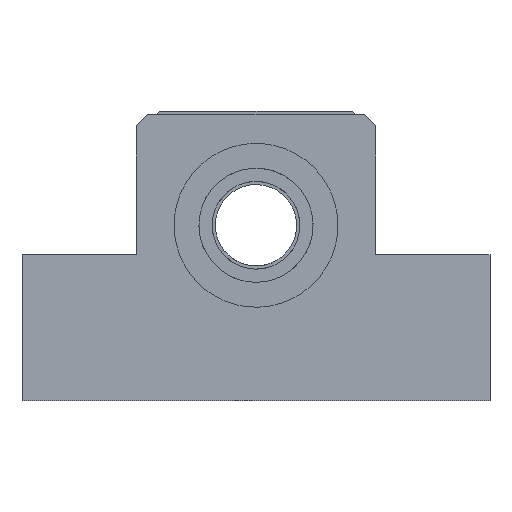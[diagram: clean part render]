
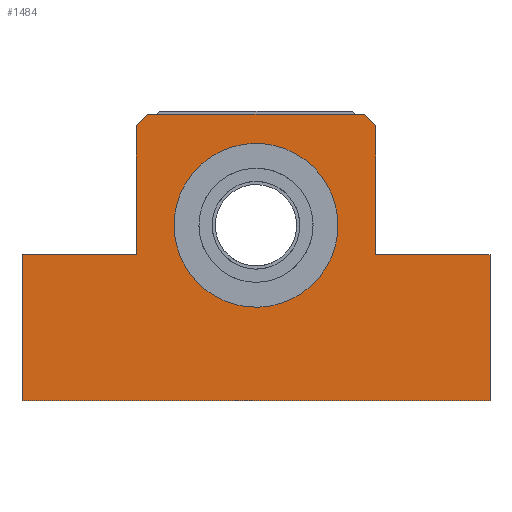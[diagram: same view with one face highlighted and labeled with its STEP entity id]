
A CAD part, left-side view. The second image highlights one B-rep face of the part: STEP entity #1484.
In plain terms, the highlighted planar face has unit normal (-1, 0, 0).
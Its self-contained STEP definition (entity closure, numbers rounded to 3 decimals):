
#891=CARTESIAN_POINT('Vertex',(-25.,18.5,19.)) ;
#894=CARTESIAN_POINT('Line Origine',(-25.,0.,19.)) ;
#898=CARTESIAN_POINT('Vertex',(-25.,-18.5,19.)) ;
#920=CARTESIAN_POINT('Line Origine',(-25.,-20.5,6.)) ;
#924=CARTESIAN_POINT('Vertex',(-25.,-20.5,17.)) ;
#926=CARTESIAN_POINT('Vertex',(-25.,-20.5,-5.)) ;
#951=CARTESIAN_POINT('Line Origine',(-25.,-30.25,-5.)) ;
#955=CARTESIAN_POINT('Vertex',(-25.,-40.,-5.)) ;
#1035=CARTESIAN_POINT('Line Origine',(-25.,-40.,-17.5)) ;
#1039=CARTESIAN_POINT('Vertex',(-25.,-40.,-30.)) ;
#1059=CARTESIAN_POINT('Line Origine',(-25.,0.,-30.)) ;
#1063=CARTESIAN_POINT('Vertex',(-25.,40.,-30.)) ;
#1203=CARTESIAN_POINT('Line Origine',(-25.,40.,-17.5)) ;
#1207=CARTESIAN_POINT('Vertex',(-25.,40.,-5.)) ;
#1222=CARTESIAN_POINT('Line Origine',(-25.,30.25,-5.)) ;
#1226=CARTESIAN_POINT('Vertex',(-25.,20.5,-5.)) ;
#1306=CARTESIAN_POINT('Line Origine',(-25.,20.5,6.)) ;
#1310=CARTESIAN_POINT('Vertex',(-25.,20.5,17.)) ;
#1330=CARTESIAN_POINT('Line Origine',(-25.,19.5,18.)) ;
#1347=CARTESIAN_POINT('Line Origine',(-25.,-19.5,18.)) ;
#1407=CARTESIAN_POINT('Axis2P3D Location',(-25.,0.,0.)) ;
#1425=CARTESIAN_POINT('Control Point',(-25.,-12.286,-6.712)) ;
#1426=CARTESIAN_POINT('Control Point',(-25.,-11.671,-7.838)) ;
#1427=CARTESIAN_POINT('Control Point',(-25.,-10.927,-8.894)) ;
#1428=CARTESIAN_POINT('Control Point',(-25.,-10.064,-9.859)) ;
#1429=CARTESIAN_POINT('Control Point',(-25.,-8.134,-11.575)) ;
#1430=CARTESIAN_POINT('Control Point',(-25.,-5.865,-12.81)) ;
#1431=CARTESIAN_POINT('Control Point',(-25.,-4.665,-13.294)) ;
#1432=CARTESIAN_POINT('Control Point',(-25.,-2.174,-13.979)) ;
#1433=CARTESIAN_POINT('Control Point',(-25.,0.407,-14.083)) ;
#1434=CARTESIAN_POINT('Control Point',(-25.,1.698,-13.986)) ;
#1435=CARTESIAN_POINT('Control Point',(-25.,4.234,-13.498)) ;
#1436=CARTESIAN_POINT('Control Point',(-25.,6.595,-12.45)) ;
#1437=CARTESIAN_POINT('Control Point',(-25.,7.71,-11.792)) ;
#1438=CARTESIAN_POINT('Control Point',(-25.,9.769,-10.233)) ;
#1439=CARTESIAN_POINT('Control Point',(-25.,11.422,-8.248)) ;
#1440=CARTESIAN_POINT('Control Point',(-25.,12.131,-7.165)) ;
#1441=CARTESIAN_POINT('Control Point',(-25.,13.288,-4.855)) ;
#1442=CARTESIAN_POINT('Control Point',(-25.,13.892,-2.344)) ;
#1443=CARTESIAN_POINT('Control Point',(-25.,14.049,-1.059)) ;
#1444=CARTESIAN_POINT('Control Point',(-25.,14.064,1.338)) ;
#1445=CARTESIAN_POINT('Control Point',(-25.,13.575,3.679)) ;
#1446=CARTESIAN_POINT('Control Point',(-25.,13.244,4.734)) ;
#1447=CARTESIAN_POINT('Control Point',(-25.,12.812,5.749)) ;
#1448=CARTESIAN_POINT('Control Point',(-25.,12.286,6.712)) ;
#1449=CARTESIAN_POINT('Vertex',(-25.,-12.286,-6.712)) ;
#1451=CARTESIAN_POINT('Vertex',(-25.,12.286,6.712)) ;
#1455=CARTESIAN_POINT('Control Point',(-25.,12.286,6.712)) ;
#1456=CARTESIAN_POINT('Control Point',(-25.,11.671,7.838)) ;
#1457=CARTESIAN_POINT('Control Point',(-25.,10.927,8.894)) ;
#1458=CARTESIAN_POINT('Control Point',(-25.,10.064,9.859)) ;
#1459=CARTESIAN_POINT('Control Point',(-25.,8.134,11.575)) ;
#1460=CARTESIAN_POINT('Control Point',(-25.,5.865,12.81)) ;
#1461=CARTESIAN_POINT('Control Point',(-25.,4.665,13.294)) ;
#1462=CARTESIAN_POINT('Control Point',(-25.,2.174,13.979)) ;
#1463=CARTESIAN_POINT('Control Point',(-25.,-0.407,14.083)) ;
#1464=CARTESIAN_POINT('Control Point',(-25.,-1.698,13.986)) ;
#1465=CARTESIAN_POINT('Control Point',(-25.,-4.234,13.498)) ;
#1466=CARTESIAN_POINT('Control Point',(-25.,-6.595,12.45)) ;
#1467=CARTESIAN_POINT('Control Point',(-25.,-7.71,11.792)) ;
#1468=CARTESIAN_POINT('Control Point',(-25.,-9.769,10.233)) ;
#1469=CARTESIAN_POINT('Control Point',(-25.,-11.422,8.248)) ;
#1470=CARTESIAN_POINT('Control Point',(-25.,-12.131,7.165)) ;
#1471=CARTESIAN_POINT('Control Point',(-25.,-13.288,4.855)) ;
#1472=CARTESIAN_POINT('Control Point',(-25.,-13.892,2.344)) ;
#1473=CARTESIAN_POINT('Control Point',(-25.,-14.049,1.059)) ;
#1474=CARTESIAN_POINT('Control Point',(-25.,-14.064,-1.338)) ;
#1475=CARTESIAN_POINT('Control Point',(-25.,-13.575,-3.679)) ;
#1476=CARTESIAN_POINT('Control Point',(-25.,-13.244,-4.734)) ;
#1477=CARTESIAN_POINT('Control Point',(-25.,-12.812,-5.749)) ;
#1478=CARTESIAN_POINT('Control Point',(-25.,-12.286,-6.712)) ;
#895=DIRECTION('Vector Direction',(0.,1.,0.)) ;
#921=DIRECTION('Vector Direction',(0.,0.,1.)) ;
#952=DIRECTION('Vector Direction',(0.,1.,0.)) ;
#1036=DIRECTION('Vector Direction',(0.,0.,1.)) ;
#1060=DIRECTION('Vector Direction',(0.,-1.,0.)) ;
#1204=DIRECTION('Vector Direction',(0.,0.,-1.)) ;
#1223=DIRECTION('Vector Direction',(0.,1.,0.)) ;
#1307=DIRECTION('Vector Direction',(0.,0.,-1.)) ;
#1331=DIRECTION('Vector Direction',(0.,-0.707,0.707)) ;
#1348=DIRECTION('Vector Direction',(0.,-0.707,-0.707)) ;
#1408=DIRECTION('Axis2P3D Direction',(1.,0.,0.)) ;
#1409=DIRECTION('Axis2P3D XDirection',(0.,1.,0.)) ;
#1410=AXIS2_PLACEMENT_3D('Plane Axis2P3D',#1407,#1408,#1409) ;
#1413=ORIENTED_EDGE('',*,*,#1351,.F.) ;
#1414=ORIENTED_EDGE('',*,*,#900,.F.) ;
#1415=ORIENTED_EDGE('',*,*,#1334,.F.) ;
#1416=ORIENTED_EDGE('',*,*,#1312,.F.) ;
#1417=ORIENTED_EDGE('',*,*,#1228,.F.) ;
#1418=ORIENTED_EDGE('',*,*,#1209,.F.) ;
#1419=ORIENTED_EDGE('',*,*,#1065,.F.) ;
#1420=ORIENTED_EDGE('',*,*,#1041,.F.) ;
#1421=ORIENTED_EDGE('',*,*,#957,.F.) ;
#1422=ORIENTED_EDGE('',*,*,#928,.F.) ;
#1481=ORIENTED_EDGE('',*,*,#1453,.T.) ;
#1482=ORIENTED_EDGE('',*,*,#1479,.T.) ;
#1483=FACE_BOUND('',#1480,.T.) ;
#896=VECTOR('Line Direction',#895,1.) ;
#922=VECTOR('Line Direction',#921,1.) ;
#953=VECTOR('Line Direction',#952,1.) ;
#1037=VECTOR('Line Direction',#1036,1.) ;
#1061=VECTOR('Line Direction',#1060,1.) ;
#1205=VECTOR('Line Direction',#1204,1.) ;
#1224=VECTOR('Line Direction',#1223,1.) ;
#1308=VECTOR('Line Direction',#1307,1.) ;
#1332=VECTOR('Line Direction',#1331,1.) ;
#1349=VECTOR('Line Direction',#1348,1.) ;
#1484=ADVANCED_FACE('EK15(H)',(#1423,#1483),#1411,.F.) ;
#1424=B_SPLINE_CURVE_WITH_KNOTS('',5,(#1425,#1426,#1427,#1428,#1429,#1430,#1431,#1432,#1433,#1434,#1435,#1436,#1437,#1438,#1439,#1440,#1441,#1442,#1443,#1444,#1445,#1446,#1447,#1448),.UNSPECIFIED.,.F.,.U.,(6,3,3,3,3,3,3,6),(0.,9.092,18.184,27.276,36.368,45.46,54.552,62.331),.UNSPECIFIED.) ;
#1454=B_SPLINE_CURVE_WITH_KNOTS('',5,(#1455,#1456,#1457,#1458,#1459,#1460,#1461,#1462,#1463,#1464,#1465,#1466,#1467,#1468,#1469,#1470,#1471,#1472,#1473,#1474,#1475,#1476,#1477,#1478),.UNSPECIFIED.,.F.,.U.,(6,3,3,3,3,3,3,6),(0.,9.092,18.184,27.276,36.368,45.46,54.552,62.331),.UNSPECIFIED.) ;
#900=EDGE_CURVE('',#892,#899,#897,.F.) ;
#928=EDGE_CURVE('',#925,#927,#923,.F.) ;
#957=EDGE_CURVE('',#927,#956,#954,.F.) ;
#1041=EDGE_CURVE('',#956,#1040,#1038,.F.) ;
#1065=EDGE_CURVE('',#1040,#1064,#1062,.F.) ;
#1209=EDGE_CURVE('',#1064,#1208,#1206,.F.) ;
#1228=EDGE_CURVE('',#1208,#1227,#1225,.F.) ;
#1312=EDGE_CURVE('',#1227,#1311,#1309,.F.) ;
#1334=EDGE_CURVE('',#1311,#892,#1333,.T.) ;
#1351=EDGE_CURVE('',#899,#925,#1350,.T.) ;
#1453=EDGE_CURVE('',#1450,#1452,#1424,.T.) ;
#1479=EDGE_CURVE('',#1452,#1450,#1454,.T.) ;
#1412=EDGE_LOOP('',(#1413,#1414,#1415,#1416,#1417,#1418,#1419,#1420,#1421,#1422)) ;
#1480=EDGE_LOOP('',(#1481,#1482)) ;
#1423=FACE_OUTER_BOUND('',#1412,.T.) ;
#897=LINE('Line',#894,#896) ;
#923=LINE('Line',#920,#922) ;
#954=LINE('Line',#951,#953) ;
#1038=LINE('Line',#1035,#1037) ;
#1062=LINE('Line',#1059,#1061) ;
#1206=LINE('Line',#1203,#1205) ;
#1225=LINE('Line',#1222,#1224) ;
#1309=LINE('Line',#1306,#1308) ;
#1333=LINE('Line',#1330,#1332) ;
#1350=LINE('Line',#1347,#1349) ;
#1411=PLANE('Plane',#1410) ;
#892=VERTEX_POINT('',#891) ;
#899=VERTEX_POINT('',#898) ;
#925=VERTEX_POINT('',#924) ;
#927=VERTEX_POINT('',#926) ;
#956=VERTEX_POINT('',#955) ;
#1040=VERTEX_POINT('',#1039) ;
#1064=VERTEX_POINT('',#1063) ;
#1208=VERTEX_POINT('',#1207) ;
#1227=VERTEX_POINT('',#1226) ;
#1311=VERTEX_POINT('',#1310) ;
#1450=VERTEX_POINT('',#1449) ;
#1452=VERTEX_POINT('',#1451) ;
